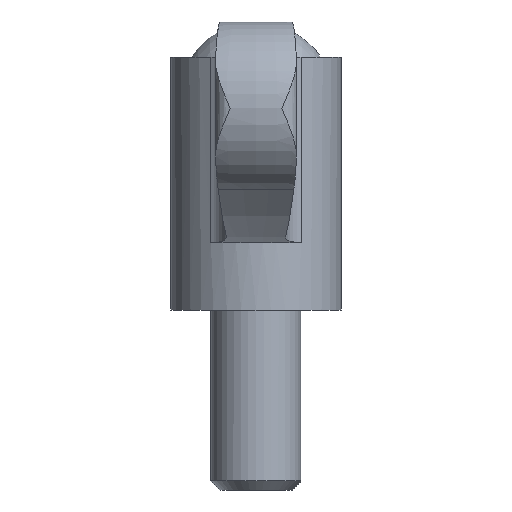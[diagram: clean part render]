
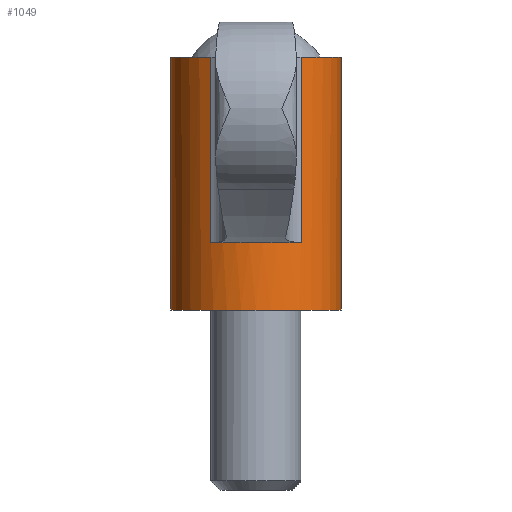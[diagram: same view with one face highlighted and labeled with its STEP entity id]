
A CAD part, left-side view. The second image highlights one B-rep face of the part: STEP entity #1049.
In plain terms, the highlighted cylindrical face has radius 9.5 mm (diameter 19 mm), a partial arc.
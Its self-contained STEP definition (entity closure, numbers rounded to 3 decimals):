
#37 = EDGE_CURVE ( 'NONE', #335, #821, #1121, .T. ) ;
#66 = CIRCLE ( 'NONE', #1244, 9.5 ) ;
#86 = LINE ( 'NONE', #920, #598 ) ;
#102 = EDGE_CURVE ( 'NONE', #1196, #1292, #66, .T. ) ;
#146 = AXIS2_PLACEMENT_3D ( 'NONE', #996, #646, #291 ) ;
#189 = LINE ( 'NONE', #1024, #1173 ) ;
#224 = FACE_OUTER_BOUND ( 'NONE', #1041, .T. ) ;
#262 = VERTEX_POINT ( 'NONE', #737 ) ;
#274 = ORIENTED_EDGE ( 'NONE', *, *, #1257, .T. ) ;
#291 = DIRECTION ( 'NONE',  ( 0., 1., 0. ) ) ;
#335 = VERTEX_POINT ( 'NONE', #705 ) ;
#367 = CARTESIAN_POINT ( 'NONE',  ( 0., 0., 0. ) ) ;
#402 = ORIENTED_EDGE ( 'NONE', *, *, #102, .F. ) ;
#411 = DIRECTION ( 'NONE',  ( 0., 0., -1. ) ) ;
#454 = EDGE_CURVE ( 'NONE', #1547, #262, #766, .T. ) ;
#457 = CARTESIAN_POINT ( 'NONE',  ( -8.075, 5.004, 28.058 ) ) ;
#464 = EDGE_CURVE ( 'NONE', #262, #889, #1476, .T. ) ;
#471 = DIRECTION ( 'NONE',  ( 0., 0., 1. ) ) ;
#473 = DIRECTION ( 'NONE',  ( 0., 0., -1. ) ) ;
#496 = VECTOR ( 'NONE', #1242, 1000. ) ;
#517 = CARTESIAN_POINT ( 'NONE',  ( 0., -9.5, 0. ) ) ;
#574 = AXIS2_PLACEMENT_3D ( 'NONE', #1545, #471, #858 ) ;
#598 = VECTOR ( 'NONE', #411, 1000. ) ;
#646 = DIRECTION ( 'NONE',  ( 0., 0., 1. ) ) ;
#647 = VECTOR ( 'NONE', #473, 1000. ) ;
#654 = CARTESIAN_POINT ( 'NONE',  ( 0., 9.5, 27. ) ) ;
#660 = DIRECTION ( 'NONE',  ( 0., 0., 1. ) ) ;
#705 = CARTESIAN_POINT ( 'NONE',  ( -8.075, -5.004, 28.058 ) ) ;
#735 = LINE ( 'NONE', #1548, #647 ) ;
#737 = CARTESIAN_POINT ( 'NONE',  ( 0., 9.5, 28.058 ) ) ;
#750 = EDGE_CURVE ( 'NONE', #1547, #1189, #1401, .T. ) ;
#756 = EDGE_CURVE ( 'NONE', #889, #1196, #735, .T. ) ;
#766 = LINE ( 'NONE', #654, #496 ) ;
#821 = VERTEX_POINT ( 'NONE', #979 ) ;
#827 = ORIENTED_EDGE ( 'NONE', *, *, #756, .F. ) ;
#858 = DIRECTION ( 'NONE',  ( 0., 1., 0. ) ) ;
#859 = DIRECTION ( 'NONE',  ( 0., 0., 1. ) ) ;
#889 = VERTEX_POINT ( 'NONE', #457 ) ;
#893 = AXIS2_PLACEMENT_3D ( 'NONE', #367, #859, #1068 ) ;
#920 = CARTESIAN_POINT ( 'NONE',  ( -8.075, -5.004, 63. ) ) ;
#926 = CARTESIAN_POINT ( 'NONE',  ( 0., 0., 28.058 ) ) ;
#936 = CARTESIAN_POINT ( 'NONE',  ( -8.075, -5.004, 7.5 ) ) ;
#937 = ORIENTED_EDGE ( 'NONE', *, *, #454, .F. ) ;
#979 = CARTESIAN_POINT ( 'NONE',  ( 0., -9.5, 28.058 ) ) ;
#996 = CARTESIAN_POINT ( 'NONE',  ( 0., 0., 28.058 ) ) ;
#1024 = CARTESIAN_POINT ( 'NONE',  ( 0., -9.5, 27. ) ) ;
#1035 = DIRECTION ( 'NONE',  ( 0., 1., 0. ) ) ;
#1041 = EDGE_LOOP ( 'NONE', ( #1259, #1123, #1264, #274, #402, #827, #1433, #937 ) ) ;
#1049 = ADVANCED_FACE ( 'NONE', ( #224 ), #1459, .T. ) ;
#1068 = DIRECTION ( 'NONE',  ( 0., 1., 0. ) ) ;
#1098 = CARTESIAN_POINT ( 'NONE',  ( -8.075, 5.004, 7.5 ) ) ;
#1121 = CIRCLE ( 'NONE', #1521, 9.5 ) ;
#1123 = ORIENTED_EDGE ( 'NONE', *, *, #1234, .T. ) ;
#1173 = VECTOR ( 'NONE', #660, 1000. ) ;
#1189 = VERTEX_POINT ( 'NONE', #517 ) ;
#1196 = VERTEX_POINT ( 'NONE', #1098 ) ;
#1234 = EDGE_CURVE ( 'NONE', #1189, #821, #189, .T. ) ;
#1242 = DIRECTION ( 'NONE',  ( 0., 0., 1. ) ) ;
#1244 = AXIS2_PLACEMENT_3D ( 'NONE', #1499, #1406, #1035 ) ;
#1256 = CARTESIAN_POINT ( 'NONE',  ( 0., 9.5, 0. ) ) ;
#1257 = EDGE_CURVE ( 'NONE', #335, #1292, #86, .T. ) ;
#1259 = ORIENTED_EDGE ( 'NONE', *, *, #750, .T. ) ;
#1264 = ORIENTED_EDGE ( 'NONE', *, *, #37, .F. ) ;
#1292 = VERTEX_POINT ( 'NONE', #936 ) ;
#1401 = CIRCLE ( 'NONE', #893, 9.5 ) ;
#1406 = DIRECTION ( 'NONE',  ( 0., 0., 1. ) ) ;
#1421 = DIRECTION ( 'NONE',  ( 0., 1., 0. ) ) ;
#1433 = ORIENTED_EDGE ( 'NONE', *, *, #464, .F. ) ;
#1459 = CYLINDRICAL_SURFACE ( 'NONE', #574, 9.5 ) ;
#1467 = DIRECTION ( 'NONE',  ( 0., 0., 1. ) ) ;
#1476 = CIRCLE ( 'NONE', #146, 9.5 ) ;
#1499 = CARTESIAN_POINT ( 'NONE',  ( 0., 0., 7.5 ) ) ;
#1521 = AXIS2_PLACEMENT_3D ( 'NONE', #926, #1467, #1421 ) ;
#1545 = CARTESIAN_POINT ( 'NONE',  ( 0., 0., 27. ) ) ;
#1547 = VERTEX_POINT ( 'NONE', #1256 ) ;
#1548 = CARTESIAN_POINT ( 'NONE',  ( -8.075, 5.004, 63. ) ) ;
